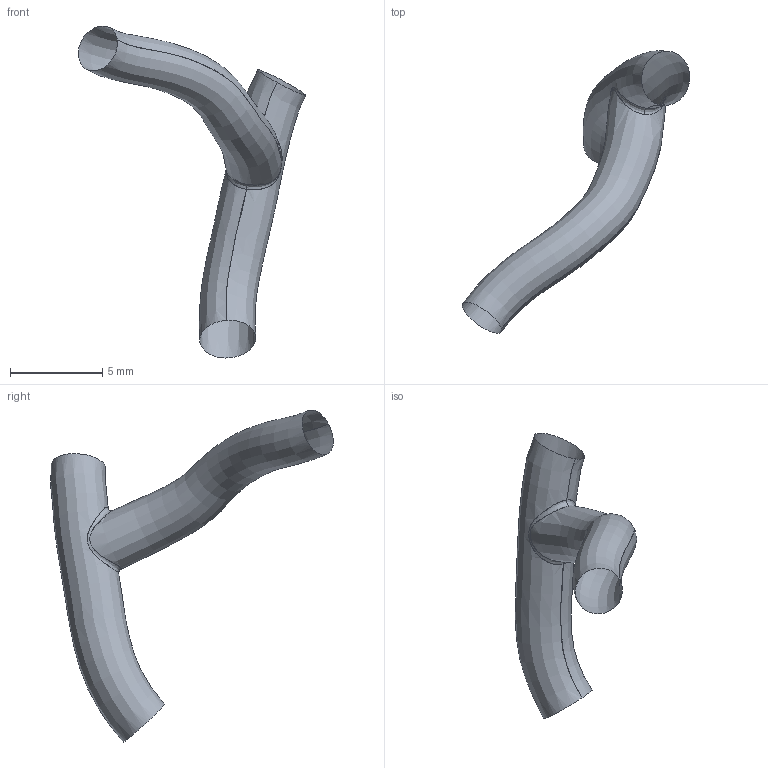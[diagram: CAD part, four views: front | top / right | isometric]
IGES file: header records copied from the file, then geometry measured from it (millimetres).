
Global section: file name: C:\Documents and Settings\Administrator\Desktop\FDA-Pig\Domestic LCA\Pig_000005\lcx.ed.igs; native system: Rhinoceros ( May 19 2006 ); preprocessor: Trout Lake IGES 012 May 19 2006; date: 111205.183354; units: centimetre
Bounding box: 12.32 x 15.3 x 17.98 mm (x, y, z)
Surface area: 277.8 mm2 (no closed solid volume)
Topology: 0 solids, 0 shells, 5 faces, 49 edges, 48 vertices
Faces by surface type: bspline 5
